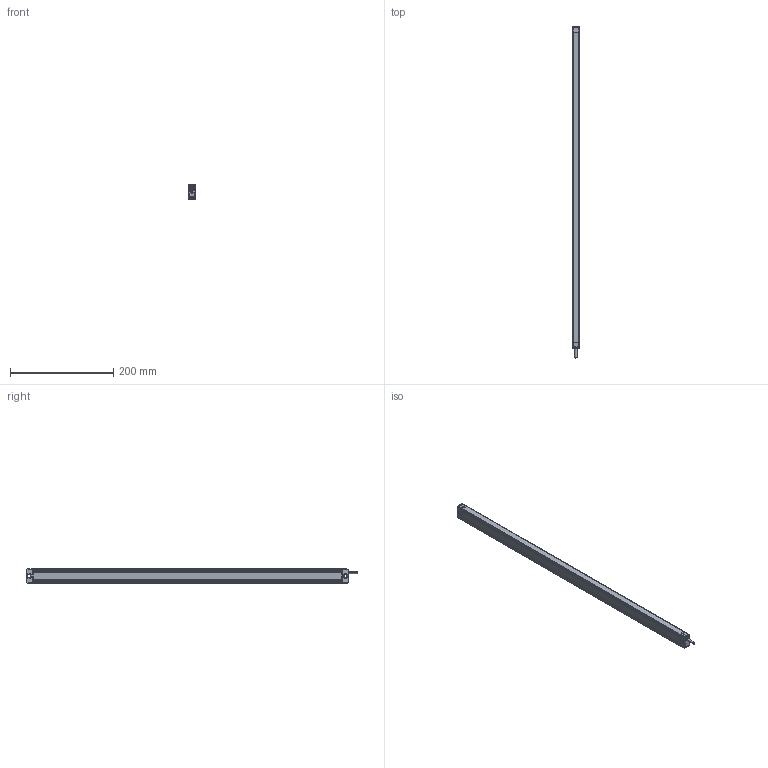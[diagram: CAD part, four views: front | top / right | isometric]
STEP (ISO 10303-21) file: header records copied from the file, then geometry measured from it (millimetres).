
FILE_DESCRIPTION((''),'2;1');
FILE_NAME('EB13-0320_ASM','2021-07-12T16:54:33',('18720616900'),(''),'CREO PARAMETRIC BY PTC INC, 2019010','CREO PARAMETRIC BY PTC INC, 2019010','');
FILE_SCHEMA(('CONFIG_CONTROL_DESIGN'));
Products named in the file (7): EB1300; 000; 0002; 0004; EB13-0320_ASM
Assembly tree (9 placements, depth 2):
  EB13-0320_ASM
    EB1300
    000
    0002
    000
    0004  x4
    000
Bounding box: 13 x 642.4 x 28 mm (x, y, z)
Volume: 233873.1 mm3; surface area: 82003 mm2
Topology: 9 solids, 27 shells, 1032 faces, 3520 edges, 2523 vertices
Faces by surface type: cylinder 544, plane 295, bspline 118, torus 40, sphere 31, cone 4
Entity records: 52594 total; most frequent: CARTESIAN_POINT 37957, ORIENTED_EDGE 3370, DIRECTION 2501, EDGE_CURVE 1685, VERTEX_POINT 1150, AXIS2_PLACEMENT_3D 849, VECTOR 803, LINE 803
